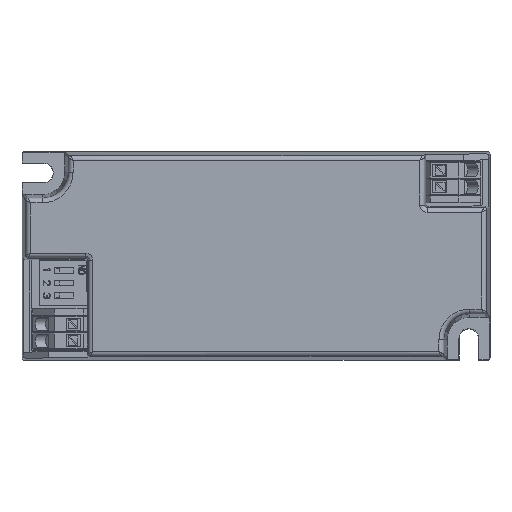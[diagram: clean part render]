
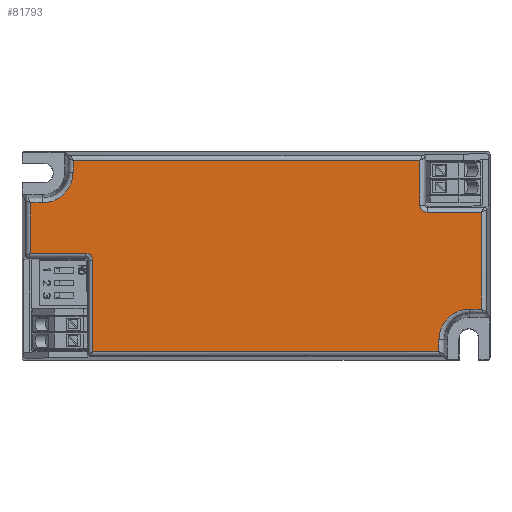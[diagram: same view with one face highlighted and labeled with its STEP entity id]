
A CAD part, front view. The second image highlights one B-rep face of the part: STEP entity #81793.
In plain terms, the highlighted planar face has unit normal (0, -1, 0) as drawn and (0, 0, -1) by its records, which use the part's own axes.
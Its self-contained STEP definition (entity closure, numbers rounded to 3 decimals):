
#54298=DIRECTION('',(0.,-1.,0.));
#54299=VECTOR('',#54298,2.488);
#54300=CARTESIAN_POINT('',(38.038,19.888,-30.1));
#54301=LINE('',#54300,#54299);
#54305=DIRECTION('',(1.,0.,0.));
#54306=VECTOR('',#54305,71.968);
#54307=CARTESIAN_POINT('',(-33.931,19.888,
-30.1));
#54308=LINE('',#54307,#54306);
#54312=DIRECTION('',(0.,1.,0.));
#54313=VECTOR('',#54312,18.957);
#54314=CARTESIAN_POINT('',(-33.931,0.931,-30.1));
#54315=LINE('',#54314,#54313);
#54319=CARTESIAN_POINT('',(-35.431,-0.569,-30.1));
#54320=CARTESIAN_POINT('',(-35.389,-0.569,
-30.1));
#54321=CARTESIAN_POINT('',(-35.306,-0.566,
-30.1));
#54322=CARTESIAN_POINT('',(-35.185,-0.551,
-30.1));
#54323=CARTESIAN_POINT('',(-35.063,-0.525,
-30.1));
#54324=CARTESIAN_POINT('',(-34.944,-0.49,
-30.1));
#54325=CARTESIAN_POINT('',(-34.829,-0.445,
-30.1));
#54326=CARTESIAN_POINT('',(-34.718,-0.391,
-30.1));
#54327=CARTESIAN_POINT('',(-34.612,-0.328,
-30.1));
#54328=CARTESIAN_POINT('',(-34.512,-0.257,-30.1));
#54329=CARTESIAN_POINT('',(-34.417,-0.177,-30.1));
#54330=CARTESIAN_POINT('',(-34.329,-0.09,-30.1));
#54331=CARTESIAN_POINT('',(-34.249,0.004,-30.1));
#54332=CARTESIAN_POINT('',(-34.177,0.104,
-30.1));
#54333=CARTESIAN_POINT('',(-34.114,0.209,
-30.1));
#54334=CARTESIAN_POINT('',(-34.059,0.32,
-30.1));
#54335=CARTESIAN_POINT('',(-34.013,0.436,
-30.1));
#54336=CARTESIAN_POINT('',(-33.977,0.553,
-30.1));
#54337=CARTESIAN_POINT('',(-33.951,0.675,
-30.1));
#54338=CARTESIAN_POINT('',(-33.934,0.802,
-30.1));
#54339=CARTESIAN_POINT('',(-33.931,0.887,
-30.1));
#54340=CARTESIAN_POINT('',(-33.931,0.931,-30.1));
#54345=DIRECTION('',(1.,0.,0.));
#54346=VECTOR('',#54345,11.457);
#54347=CARTESIAN_POINT('',(-46.888,-0.569,
-30.1));
#54348=LINE('',#54347,#54346);
#54352=DIRECTION('',(0.,1.,0.));
#54353=VECTOR('',#54352,10.468);
#54354=CARTESIAN_POINT('',(-46.888,-11.038,-30.1));
#54355=LINE('',#54354,#54353);
#54359=DIRECTION('',(-1.,0.,0.));
#54360=VECTOR('',#54359,2.488);
#54361=CARTESIAN_POINT('',(-44.4,-11.038,-30.1));
#54362=LINE('',#54361,#54360);
#54366=CARTESIAN_POINT('',(-44.4,-17.4,-30.1));
#54367=DIRECTION('',(0.,0.,1.));
#54368=DIRECTION('',(1.,0.,0.));
#54369=AXIS2_PLACEMENT_3D('',#54366,#54367,#54368);
#54374=DIRECTION('',(0.,1.,0.));
#54375=VECTOR('',#54374,2.488);
#54376=CARTESIAN_POINT('',(-38.038,-19.888,-30.1));
#54377=LINE('',#54376,#54375);
#54381=DIRECTION('',(-1.,0.,0.));
#54382=VECTOR('',#54381,72.099);
#54383=CARTESIAN_POINT('',(34.062,-19.888,
-30.1));
#54384=LINE('',#54383,#54382);
#54388=DIRECTION('',(0.,-1.,
0.));
#54389=VECTOR('',#54388,9.326);
#54390=CARTESIAN_POINT('',(34.062,-10.562,-30.1));
#54391=LINE('',#54390,#54389);
#54395=CARTESIAN_POINT('',(35.562,-9.062,-30.1));
#54396=CARTESIAN_POINT('',(35.52,-9.062,
-30.1));
#54397=CARTESIAN_POINT('',(35.436,-9.065,
-30.1));
#54398=CARTESIAN_POINT('',(35.315,-9.08,
-30.1));
#54399=CARTESIAN_POINT('',(35.194,-9.106,
-30.1));
#54400=CARTESIAN_POINT('',(35.075,-9.141,
-30.1));
#54401=CARTESIAN_POINT('',(34.96,-9.186,
-30.1));
#54402=CARTESIAN_POINT('',(34.849,-9.24,
-30.1));
#54403=CARTESIAN_POINT('',(34.743,-9.303,
-30.1));
#54404=CARTESIAN_POINT('',(34.642,-9.374,-30.1));
#54405=CARTESIAN_POINT('',(34.548,-9.454,-30.1));
#54406=CARTESIAN_POINT('',(34.46,-9.541,-30.1));
#54407=CARTESIAN_POINT('',(34.38,-9.635,-30.1));
#54408=CARTESIAN_POINT('',(34.308,-9.735,
-30.1));
#54409=CARTESIAN_POINT('',(34.244,-9.841,
-30.1));
#54410=CARTESIAN_POINT('',(34.19,-9.952,
-30.1));
#54411=CARTESIAN_POINT('',(34.144,-10.067,
-30.1));
#54412=CARTESIAN_POINT('',(34.108,-10.185,
-30.1));
#54413=CARTESIAN_POINT('',(34.082,-10.306,
-30.1));
#54414=CARTESIAN_POINT('',(34.065,-10.433,
-30.1));
#54415=CARTESIAN_POINT('',(34.062,-10.518,
-30.1));
#54416=CARTESIAN_POINT('',(34.062,-10.562,-30.1));
#54421=DIRECTION('',(-1.,0.,0.));
#54422=VECTOR('',#54421,11.326);
#54423=CARTESIAN_POINT('',(46.888,-9.062,
-30.1));
#54424=LINE('',#54423,#54422);
#54428=DIRECTION('',(0.,-1.,
0.));
#54429=VECTOR('',#54428,20.099);
#54430=CARTESIAN_POINT('',(46.888,11.038,-30.1));
#54431=LINE('',#54430,#54429);
#54435=DIRECTION('',(1.,0.,0.));
#54436=VECTOR('',#54435,2.488);
#54437=CARTESIAN_POINT('',(44.4,11.038,-30.1));
#54438=LINE('',#54437,#54436);
#54442=CARTESIAN_POINT('',(44.4,17.4,-30.1));
#54443=DIRECTION('',(0.,0.,1.));
#54444=DIRECTION('',(-1.,0.,0.));
#54445=AXIS2_PLACEMENT_3D('',#54442,#54443,#54444);
#78940=CARTESIAN_POINT('',(38.038,19.888,-30.1));
#78941=CARTESIAN_POINT('',(38.038,17.4,-30.1));
#78942=VERTEX_POINT('',#78940);
#78943=VERTEX_POINT('',#78941);
#78948=CARTESIAN_POINT('',(44.4,11.038,-30.1));
#78949=VERTEX_POINT('',#78948);
#78954=CARTESIAN_POINT('',(46.888,11.038,-30.1));
#78955=VERTEX_POINT('',#78954);
#78960=CARTESIAN_POINT('',(46.888,-9.062,
-30.1));
#78961=VERTEX_POINT('',#78960);
#78962=CARTESIAN_POINT('',(35.562,-9.062,-30.1));
#78963=VERTEX_POINT('',#78962);
#78968=VERTEX_POINT('',#54416);
#78972=CARTESIAN_POINT('',(34.062,-19.888,
-30.1));
#78973=VERTEX_POINT('',#78972);
#78978=CARTESIAN_POINT('',(-38.038,-19.888,-30.1));
#78979=VERTEX_POINT('',#78978);
#78980=CARTESIAN_POINT('',(-38.038,-17.4,-30.1));
#78981=VERTEX_POINT('',#78980);
#78986=CARTESIAN_POINT('',(-44.4,-11.038,-30.1));
#78987=VERTEX_POINT('',#78986);
#78992=CARTESIAN_POINT('',(-46.888,-11.038,-30.1));
#78993=VERTEX_POINT('',#78992);
#78998=CARTESIAN_POINT('',(-46.888,-0.569,
-30.1));
#78999=VERTEX_POINT('',#78998);
#79004=CARTESIAN_POINT('',(-33.931,0.931,-30.1));
#79005=CARTESIAN_POINT('',(-33.931,19.888,
-30.1));
#79006=VERTEX_POINT('',#79004);
#79007=VERTEX_POINT('',#79005);
#79008=VERTEX_POINT('',#54319);
#81755=CARTESIAN_POINT('',(0.,0.,-30.1));
#81756=DIRECTION('',(0.,0.,1.));
#81757=DIRECTION('',(1.,0.,0.));
#81758=AXIS2_PLACEMENT_3D('',#81755,#81756,#81757);
#81759=PLANE('',#81758);
#81761=ORIENTED_EDGE('',*,*,#81760,.F.);
#81763=ORIENTED_EDGE('',*,*,#81762,.F.);
#81765=ORIENTED_EDGE('',*,*,#81764,.F.);
#81767=ORIENTED_EDGE('',*,*,#81766,.F.);
#81768=ORIENTED_EDGE('',*,*,#81743,.F.);
#81770=ORIENTED_EDGE('',*,*,#81769,.F.);
#81772=ORIENTED_EDGE('',*,*,#81771,.F.);
#81774=ORIENTED_EDGE('',*,*,#81773,.F.);
#81776=ORIENTED_EDGE('',*,*,#81775,.F.);
#81778=ORIENTED_EDGE('',*,*,#81777,.F.);
#81780=ORIENTED_EDGE('',*,*,#81779,.F.);
#81782=ORIENTED_EDGE('',*,*,#81781,.F.);
#81784=ORIENTED_EDGE('',*,*,#81783,.F.);
#81786=ORIENTED_EDGE('',*,*,#81785,.F.);
#81788=ORIENTED_EDGE('',*,*,#81787,.F.);
#81790=ORIENTED_EDGE('',*,*,#81789,.F.);
#81791=EDGE_LOOP('',(#81761,#81763,#81765,#81767,#81768,#81770,#81772,#81774,
#81776,#81778,#81780,#81782,#81784,#81786,#81788,#81790));
#81792=FACE_OUTER_BOUND('',#81791,.F.);
#81793=ADVANCED_FACE('',(#81792),#81759,.F.);
#54341=B_SPLINE_CURVE_WITH_KNOTS('',3,(#54319,#54320,#54321,#54322,#54323,
#54324,#54325,#54326,#54327,#54328,#54329,#54330,#54331,#54332,#54333,#54334,
#54335,#54336,#54337,#54338,#54339,#54340),.UNSPECIFIED.,.F.,.F.,(4,1,1,1,1,1,1,
1,1,1,1,1,1,1,1,1,1,1,1,4),(0.,0.053,0.105,
0.158,0.211,0.263,0.316,
0.368,0.421,0.474,0.526,
0.579,0.632,0.684,0.737,
0.789,0.842,0.895,0.947,1.),
.UNSPECIFIED.);
#54370=CIRCLE('',#54369,6.362);
#54417=B_SPLINE_CURVE_WITH_KNOTS('',3,(#54395,#54396,#54397,#54398,#54399,
#54400,#54401,#54402,#54403,#54404,#54405,#54406,#54407,#54408,#54409,#54410,
#54411,#54412,#54413,#54414,#54415,#54416),.UNSPECIFIED.,.F.,.F.,(4,1,1,1,1,1,1,
1,1,1,1,1,1,1,1,1,1,1,1,4),(0.,0.053,0.105,
0.158,0.211,0.263,0.316,
0.368,0.421,0.474,0.526,
0.579,0.632,0.684,0.737,
0.789,0.842,0.895,0.947,1.),
.UNSPECIFIED.);
#54446=CIRCLE('',#54445,6.362);
#81743=EDGE_CURVE('',#78999,#79008,#54348,.T.);
#81760=EDGE_CURVE('',#78942,#78943,#54301,.T.);
#81762=EDGE_CURVE('',#79007,#78942,#54308,.T.);
#81764=EDGE_CURVE('',#79006,#79007,#54315,.T.);
#81766=EDGE_CURVE('',#79008,#79006,#54341,.T.);
#81769=EDGE_CURVE('',#78993,#78999,#54355,.T.);
#81771=EDGE_CURVE('',#78987,#78993,#54362,.T.);
#81773=EDGE_CURVE('',#78981,#78987,#54370,.T.);
#81775=EDGE_CURVE('',#78979,#78981,#54377,.T.);
#81777=EDGE_CURVE('',#78973,#78979,#54384,.T.);
#81779=EDGE_CURVE('',#78968,#78973,#54391,.T.);
#81781=EDGE_CURVE('',#78963,#78968,#54417,.T.);
#81783=EDGE_CURVE('',#78961,#78963,#54424,.T.);
#81785=EDGE_CURVE('',#78955,#78961,#54431,.T.);
#81787=EDGE_CURVE('',#78949,#78955,#54438,.T.);
#81789=EDGE_CURVE('',#78943,#78949,#54446,.T.);
